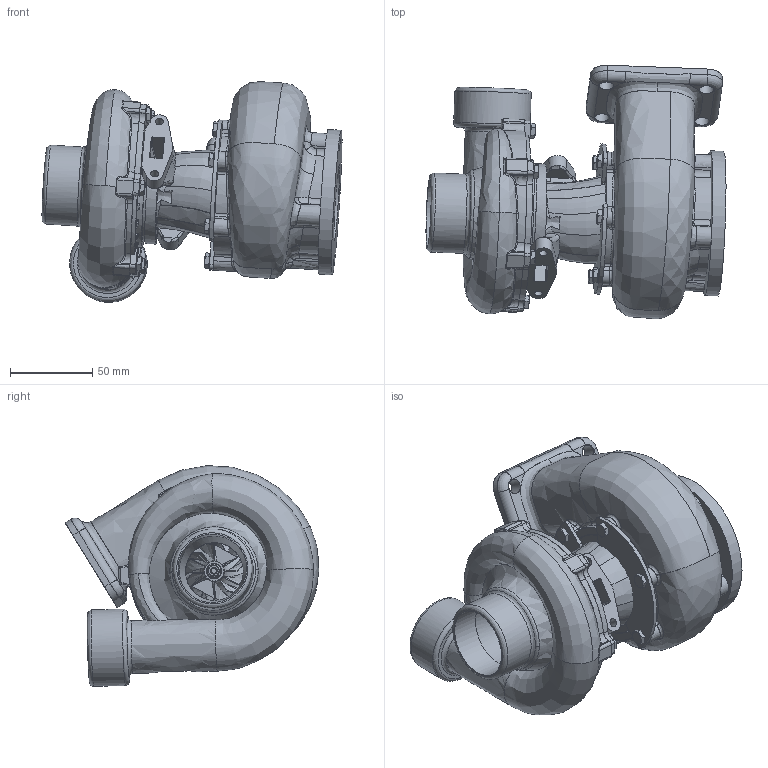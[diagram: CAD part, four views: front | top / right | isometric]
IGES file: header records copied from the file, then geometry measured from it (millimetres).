
Global section: file name: turbocharger; native system: unknown; preprocessor: unknown; author: dewanjan.c@gmail.com; organization: unknown; date: 20170930.000958; units: millimetre
Bounding box: 181.93 x 153.82 x 133.86 mm (x, y, z)
Volume: 373955.4 mm3; surface area: 250255.2 mm2
Topology: 26 solids, 26 shells, 1529 faces, 14410 edges, 13203 vertices
Faces by surface type: bspline 1431, revolution 98
